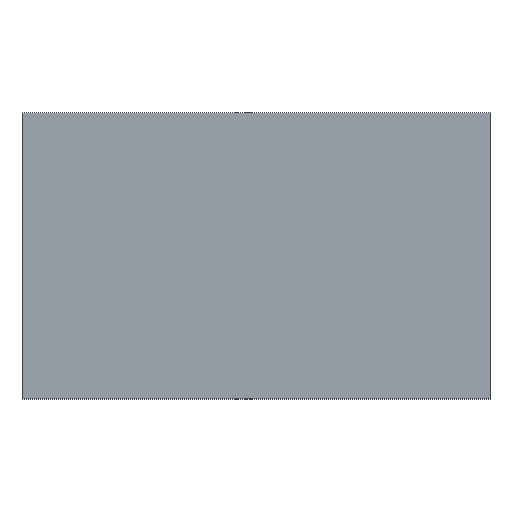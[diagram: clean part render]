
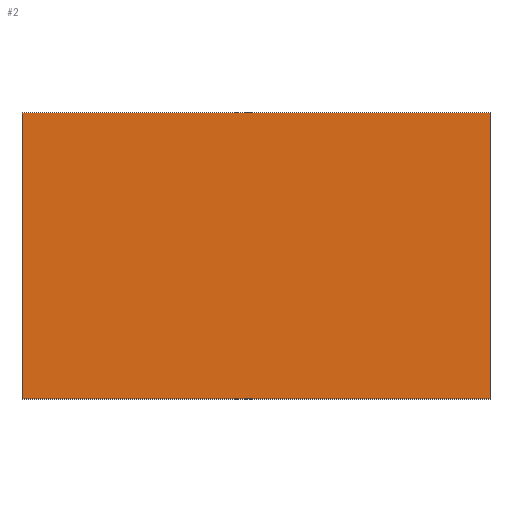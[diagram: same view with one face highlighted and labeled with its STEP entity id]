
A CAD part, top view. The second image highlights one B-rep face of the part: STEP entity #2.
In plain terms, the highlighted planar face has unit normal (0, 0, 1).
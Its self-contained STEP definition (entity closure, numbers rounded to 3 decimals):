
#2 = ADVANCED_FACE ( 'NONE', ( #188 ), #105, .F. ) ;
#12 = EDGE_CURVE ( 'NONE', #99, #97, #135, .T. ) ;
#18 = EDGE_CURVE ( 'NONE', #101, #99, #172, .T. ) ;
#19 = AXIS2_PLACEMENT_3D ( 'NONE', #91, #43, #120 ) ;
#28 = EDGE_CURVE ( 'NONE', #100, #101, #174, .T. ) ;
#34 = EDGE_CURVE ( 'NONE', #97, #100, #154, .T. ) ;
#43 = DIRECTION ( 'NONE',  ( 0., 0., -1. ) ) ;
#45 = DIRECTION ( 'NONE',  ( -1., 0., 0. ) ) ;
#50 = CARTESIAN_POINT ( 'NONE',  ( 351., 0., 6. ) ) ;
#51 = DIRECTION ( 'NONE',  ( 0., 1., 0. ) ) ;
#55 = CARTESIAN_POINT ( 'NONE',  ( -351., 0., 6. ) ) ;
#57 = CARTESIAN_POINT ( 'NONE',  ( 351., 429., 6. ) ) ;
#64 = CARTESIAN_POINT ( 'NONE',  ( 351., 0., 6. ) ) ;
#67 = CARTESIAN_POINT ( 'NONE',  ( -351., 0., 6. ) ) ;
#70 = CARTESIAN_POINT ( 'NONE',  ( -351., 0., 6. ) ) ;
#72 = CARTESIAN_POINT ( 'NONE',  ( -351., 429., 6. ) ) ;
#74 = DIRECTION ( 'NONE',  ( 1., 0., 0. ) ) ;
#76 = DIRECTION ( 'NONE',  ( 0., -1., 0. ) ) ;
#78 = CARTESIAN_POINT ( 'NONE',  ( -351., 429., 6. ) ) ;
#91 = CARTESIAN_POINT ( 'NONE',  ( -351., 429., 6. ) ) ;
#97 = VERTEX_POINT ( 'NONE', #64 ) ;
#99 = VERTEX_POINT ( 'NONE', #67 ) ;
#100 = VERTEX_POINT ( 'NONE', #57 ) ;
#101 = VERTEX_POINT ( 'NONE', #78 ) ;
#105 = PLANE ( 'NONE',  #19 ) ;
#120 = DIRECTION ( 'NONE',  ( 0., 1., 0. ) ) ;
#135 = LINE ( 'NONE', #55, #162 ) ;
#143 = ORIENTED_EDGE ( 'NONE', *, *, #34, .T. ) ;
#148 = VECTOR ( 'NONE', #45, 1000. ) ;
#151 = VECTOR ( 'NONE', #76, 1000. ) ;
#154 = LINE ( 'NONE', #50, #156 ) ;
#156 = VECTOR ( 'NONE', #51, 1000. ) ;
#159 = EDGE_LOOP ( 'NONE', ( #178, #195, #143, #187 ) ) ;
#162 = VECTOR ( 'NONE', #74, 1000. ) ;
#172 = LINE ( 'NONE', #70, #151 ) ;
#174 = LINE ( 'NONE', #72, #148 ) ;
#178 = ORIENTED_EDGE ( 'NONE', *, *, #18, .T. ) ;
#187 = ORIENTED_EDGE ( 'NONE', *, *, #28, .T. ) ;
#188 = FACE_OUTER_BOUND ( 'NONE', #159, .T. ) ;
#195 = ORIENTED_EDGE ( 'NONE', *, *, #12, .T. ) ;
